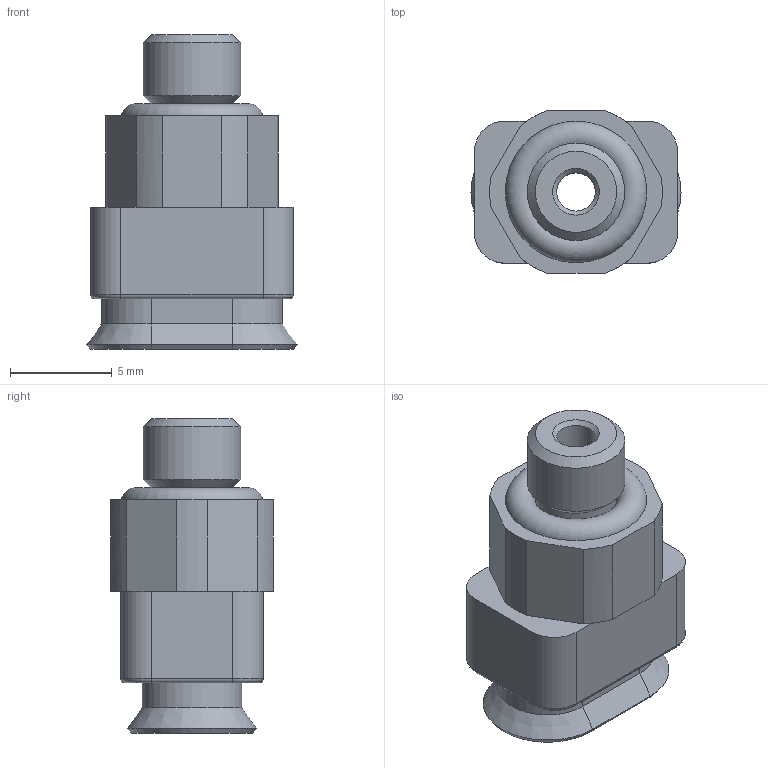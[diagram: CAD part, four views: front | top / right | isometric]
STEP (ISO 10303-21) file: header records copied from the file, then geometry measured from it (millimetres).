
FILE_DESCRIPTION( ( 'Unknown' ), '1' );
FILE_NAME( 'D:/New PAD/PAD-VOU/Part/STEP/VOU 6X10_M5M.stp', 'Unknown', ( 'Unknown' ), ( 'Unknown' ), 'XStep 1.0', 'Unknown', ' ' );
FILE_SCHEMA( ( 'automotive_design' ) );
Length unit declared in the file: millimetre
Products named in the file (1): Fitting-M5M VOU
Bounding box: 10.35 x 8 x 15.5 mm (x, y, z)
Volume: 685.6 mm3; surface area: 648.2 mm2
Topology: 1 solids, 1 shells, 58 faces, 133 edges, 81 vertices
Faces by surface type: plane 26, cylinder 20, cone 7, torus 5
Full cylindrical faces by diameter (mm): 1.9 x1, 3 x1, 4 x1, 4.8 x1
Entity records: 2064 total; most frequent: DIRECTION 298, CARTESIAN_POINT 263, ORIENTED_EDGE 248, EDGE_CURVE 124, AXIS2_PLACEMENT_3D 115, VERTEX_POINT 80, EDGE_LOOP 72, LINE 68
